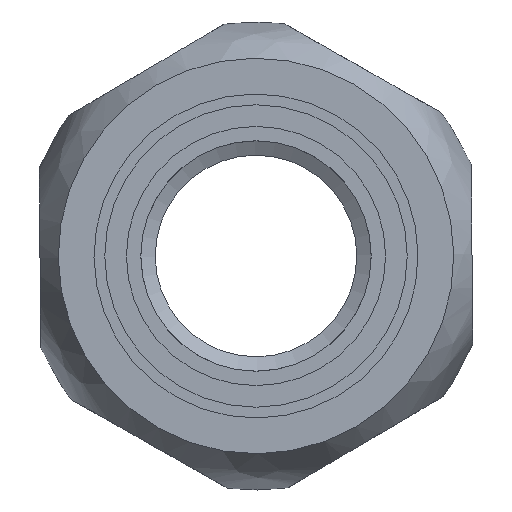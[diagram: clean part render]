
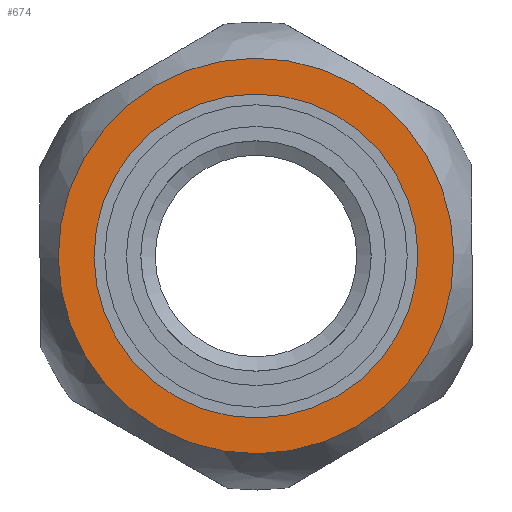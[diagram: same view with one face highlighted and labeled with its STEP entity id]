
A CAD part, left-side view. The second image highlights one B-rep face of the part: STEP entity #674.
In plain terms, the highlighted planar face has unit normal (-1, 0, 0).
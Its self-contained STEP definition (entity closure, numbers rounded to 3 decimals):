
#130=FACE_BOUND('',#236,.T.);
#164=FACE_OUTER_BOUND('',#235,.T.);
#235=EDGE_LOOP('',(#517,#518));
#236=EDGE_LOOP('',(#519));
#291=CIRCLE('',#738,13.735);
#292=CIRCLE('',#739,13.735);
#296=CIRCLE('',#747,11.25);
#345=VERTEX_POINT('',#1470);
#346=VERTEX_POINT('',#1474);
#350=VERTEX_POINT('',#1487);
#407=EDGE_CURVE('',#345,#346,#291,.T.);
#408=EDGE_CURVE('',#346,#345,#292,.T.);
#412=EDGE_CURVE('',#350,#350,#296,.T.);
#517=ORIENTED_EDGE('',*,*,#408,.F.);
#518=ORIENTED_EDGE('',*,*,#407,.F.);
#519=ORIENTED_EDGE('',*,*,#412,.T.);
#638=PLANE('',#748);
#674=ADVANCED_FACE('',(#164,#130),#638,.T.);
#738=AXIS2_PLACEMENT_3D('',#1475,#873,#874);
#739=AXIS2_PLACEMENT_3D('',#1476,#875,#876);
#747=AXIS2_PLACEMENT_3D('',#1488,#891,#892);
#748=AXIS2_PLACEMENT_3D('',#1489,#893,#894);
#873=DIRECTION('center_axis',(1.,0.,0.));
#874=DIRECTION('ref_axis',(0.,1.,0.));
#875=DIRECTION('center_axis',(1.,0.,0.));
#876=DIRECTION('ref_axis',(0.,1.,0.));
#891=DIRECTION('center_axis',(1.,0.,0.));
#892=DIRECTION('ref_axis',(0.,1.,0.));
#893=DIRECTION('center_axis',(-1.,0.,0.));
#894=DIRECTION('ref_axis',(0.,0.,1.));
#1470=CARTESIAN_POINT('',(0.,0.,13.735));
#1474=CARTESIAN_POINT('',(0.,13.735,0.));
#1475=CARTESIAN_POINT('Origin',(0.,0.,0.));
#1476=CARTESIAN_POINT('Origin',(0.,0.,0.));
#1487=CARTESIAN_POINT('',(0.,11.25,0.));
#1488=CARTESIAN_POINT('Origin',(0.,0.,0.));
#1489=CARTESIAN_POINT('Origin',(0.,12.493,0.));
